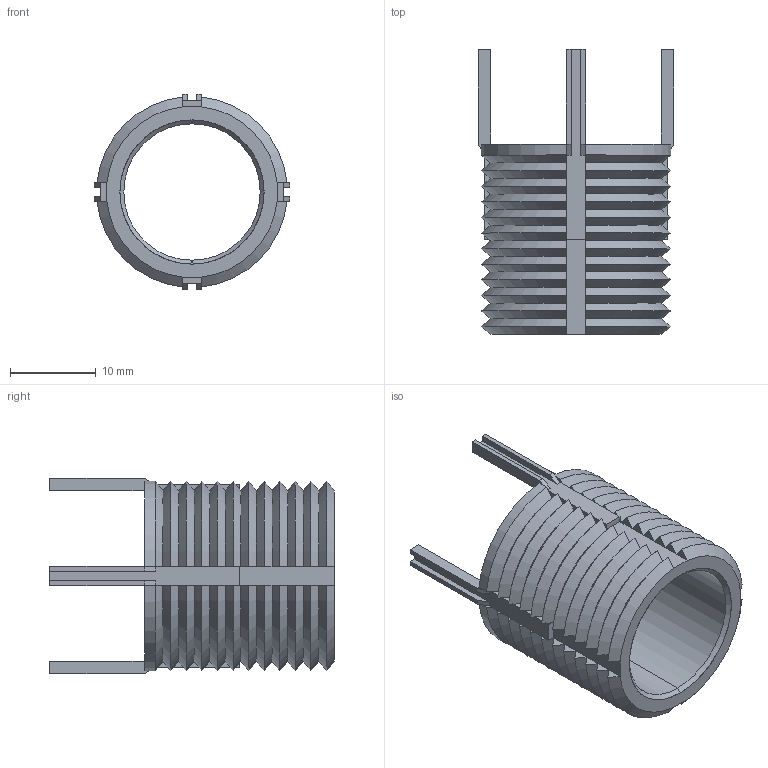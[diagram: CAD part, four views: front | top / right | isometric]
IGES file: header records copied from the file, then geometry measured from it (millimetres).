
Start section: SolidWorks IGES file using analytic representation for surfaces
Global section: file name: C:\Users\IanO\Desktop\TR1575\TR1575_v2_20230420_IGES\Default.igs; native system: SolidWorks 2019; preprocessor: SolidWorks 2019; author: IanO; date: 230420.093004; units: inch
Bounding box: 22.74 x 33.15 x 22.74 mm (x, y, z)
Surface area: 4336.7 mm2 (no closed solid volume)
Topology: 0 solids, 0 shells, 252 faces, 1192 edges, 1192 vertices
Faces by surface type: bspline 150, revolution 102
